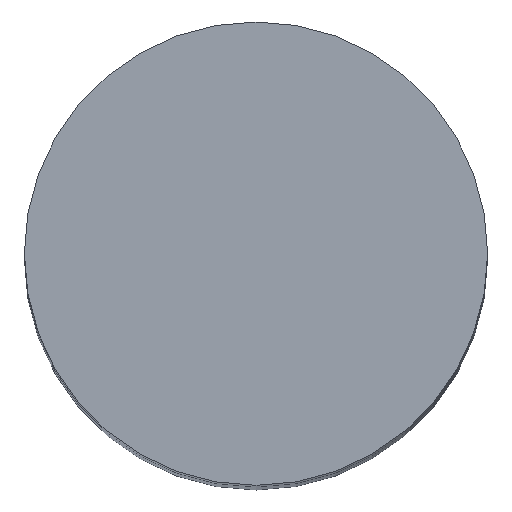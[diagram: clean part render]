
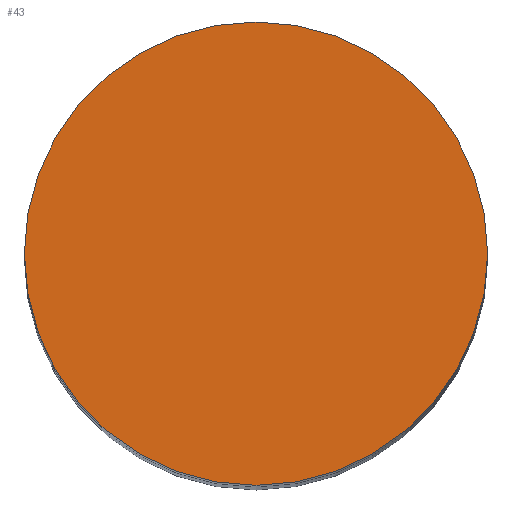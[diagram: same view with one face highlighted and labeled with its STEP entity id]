
A CAD part, top view. The second image highlights one B-rep face of the part: STEP entity #43.
In plain terms, the highlighted planar face has unit normal (0, 0, 1).
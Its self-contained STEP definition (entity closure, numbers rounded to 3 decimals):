
#43=ADVANCED_FACE('',(#85),#86,.F.);
#85=FACE_OUTER_BOUND('',#125,.T.);
#86=PLANE('',#126);
#125=EDGE_LOOP('',(#179,#180));
#126=AXIS2_PLACEMENT_3D('',#181,#182,#183);
#179=ORIENTED_EDGE('',*,*,#232,.T.);
#180=ORIENTED_EDGE('',*,*,#242,.T.);
#181=CARTESIAN_POINT('',(0.0,0.0,92.0));
#182=DIRECTION('',(0.0,0.0,-1.0));
#183=DIRECTION('',(-1.0,0.0,0.0));
#232=EDGE_CURVE('',#263,#267,#269,.T.);
#242=EDGE_CURVE('',#267,#263,#283,.T.);
#263=VERTEX_POINT('',#306);
#267=VERTEX_POINT('',#311);
#269=CIRCLE('',#314,8.0);
#283=CIRCLE('',#330,8.0);
#306=CARTESIAN_POINT('',(8.0,0.0,92.0));
#311=CARTESIAN_POINT('',(-8.0,0.,92.0));
#314=AXIS2_PLACEMENT_3D('',#353,#354,#355);
#330=AXIS2_PLACEMENT_3D('',#370,#371,#372);
#353=CARTESIAN_POINT('',(0.0,0.0,92.0));
#354=DIRECTION('',(0.0,0.0,1.0));
#355=DIRECTION('',(1.0,0.0,0.0));
#370=CARTESIAN_POINT('',(0.0,0.0,92.0));
#371=DIRECTION('',(0.0,0.0,1.0));
#372=DIRECTION('',(1.0,0.0,0.0));
